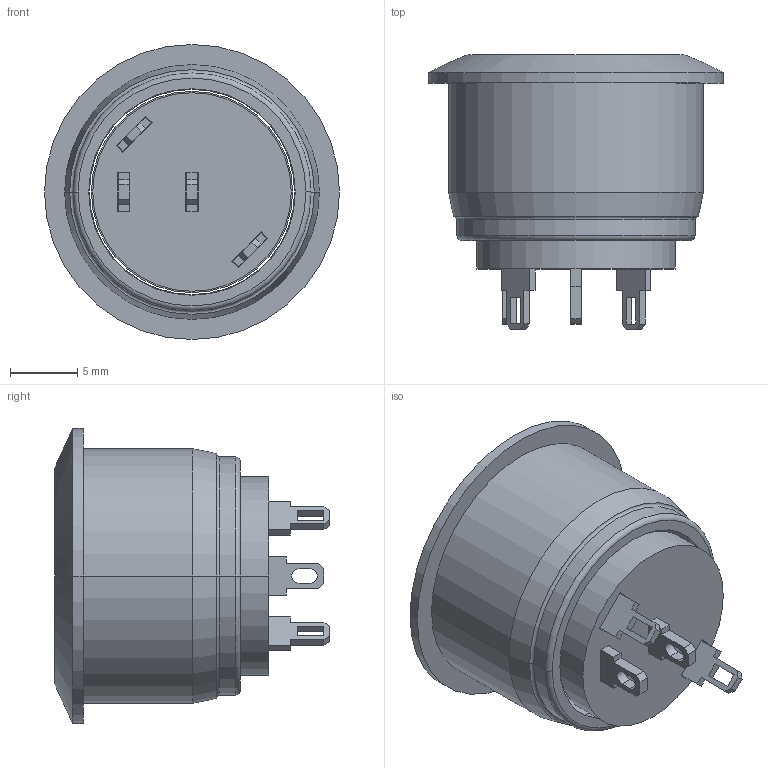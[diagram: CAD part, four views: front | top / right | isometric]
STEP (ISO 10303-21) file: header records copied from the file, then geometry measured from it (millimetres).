
FILE_DESCRIPTION((''),'2;1');
FILE_NAME('AV9SLD2611001','2012-09-25T',('jlgachon'),(''),'PRO/ENGINEER BY PARAMETRIC TECHNOLOGY CORPORATION, 2011250','PRO/ENGINEER BY PARAMETRIC TECHNOLOGY CORPORATION, 2011250','');
FILE_SCHEMA(('CONFIG_CONTROL_DESIGN'));
Length unit declared in the file: millimetre
Products named in the file (1): AV9SLD2611001
Bounding box: 22 x 20.48 x 22 mm (x, y, z)
Surface area: 1740.1 mm2 (no closed solid volume)
Topology: 0 solids, 9 shells, 83 faces, 276 edges, 204 vertices
Faces by surface type: plane 63, cylinder 12, torus 4, cone 2, bspline 2
Entity records: 3083 total; most frequent: CARTESIAN_POINT 593, DIRECTION 496, ORIENTED_EDGE 464, EDGE_CURVE 276, VECTOR 218, LINE 218, VERTEX_POINT 204, AXIS2_PLACEMENT_3D 139
